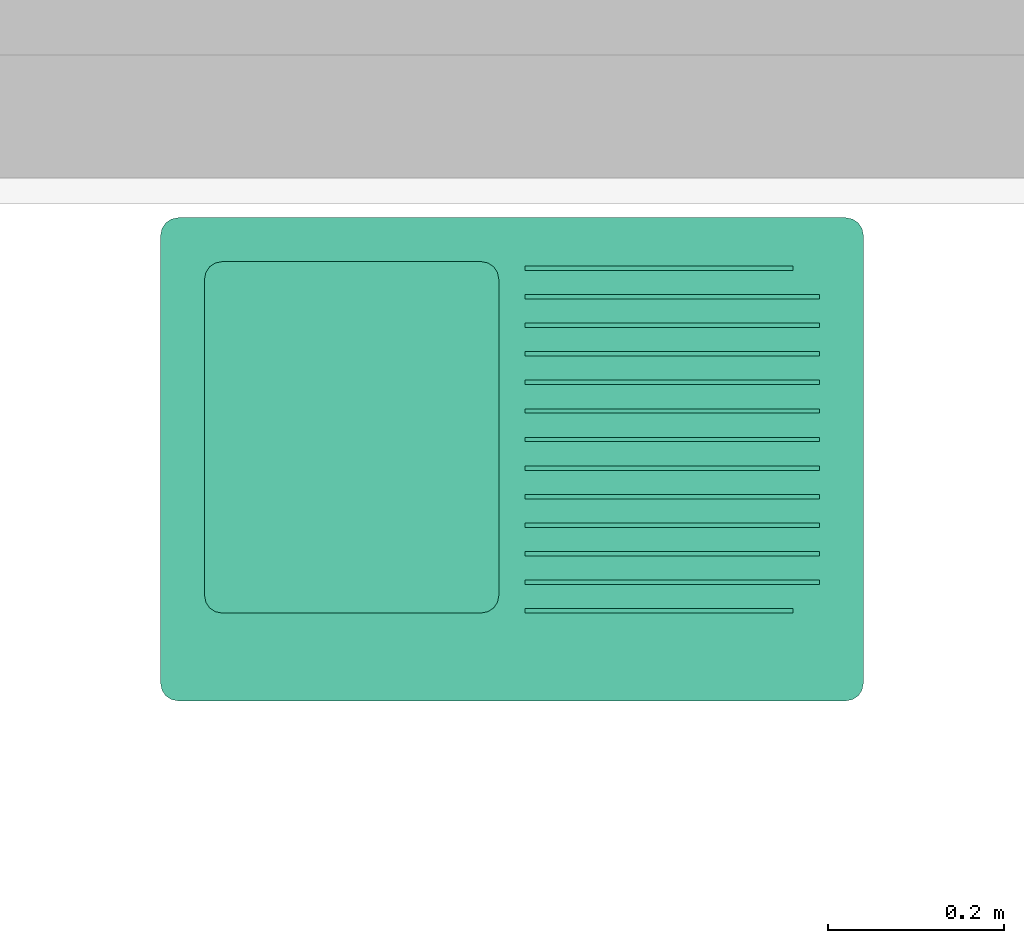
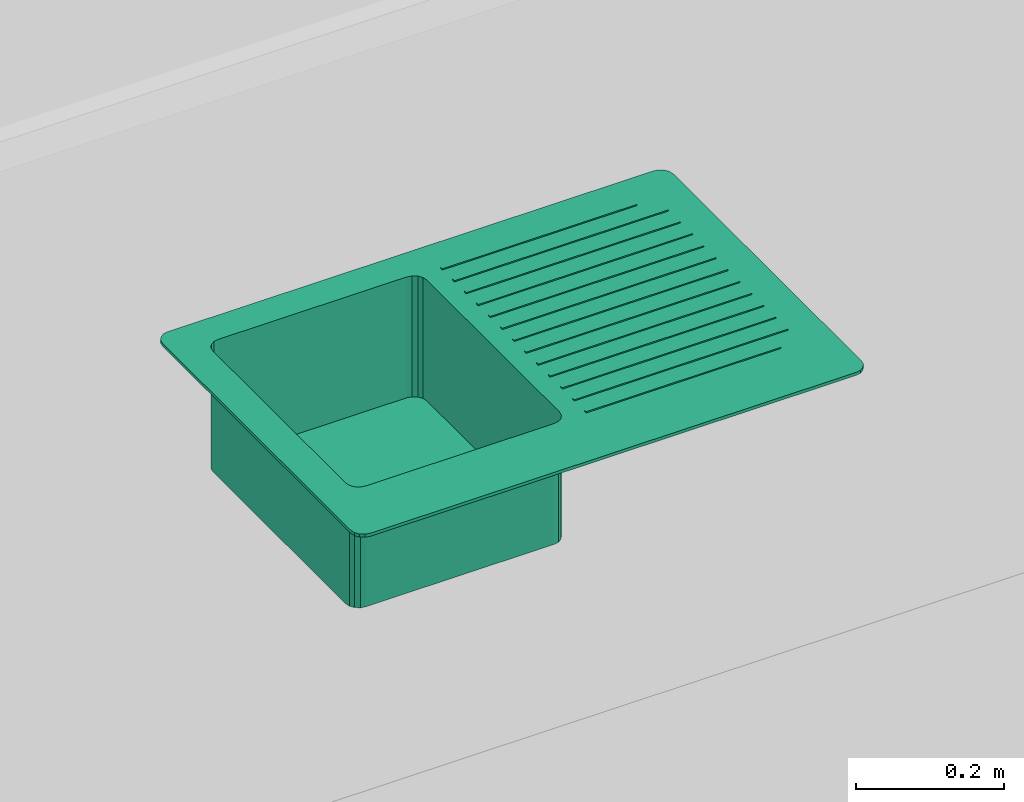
# One storey, part 31 of 34: 1 distribution element.
"""IFC2X3 building model written with IfcOpenShell, lengths in metres."""

import ifcopenshell
import ifcopenshell.guid

model = None  # the IFC model being written
_history = None  # IfcOwnerHistory: only IFC2X3 demands one
_inside = {}  # id of a spatial element -> (the spatial element, [elements in it])
_under = {}  # id of a project, library or spatial element -> (it, [spatial elements below it])
_declared = {}  # id of a project -> (the project, [libraries it declares])
_typed = {}  # id of a type object -> (the type object, [elements of that type])
_made_of = {}  # id of a material, layer set ... -> (it, [elements and type objects made of it])


def new_model(schema):
    """Start an empty IFC model of exactly this schema.

    Asked for "IFC4X3", IfcOpenShell would pick the latest addendum, in which some entities
    have other attributes; the version numbers below select the first issue.
    IFC2X3 requires an IfcOwnerHistory on every rooted entity: one is made here for all.
    """
    global model, _history
    if schema == "IFC4X3":
        model = ifcopenshell.file(schema_version=(4, 3, 0, 0))
    else:
        model = ifcopenshell.file(schema=schema)
    _inside.clear()
    _under.clear()
    _declared.clear()
    _typed.clear()
    _made_of.clear()
    _history = None
    if model.schema == "IFC2X3":
        org = make("IfcOrganization", Name="unknown")
        user = make(
            "IfcPersonAndOrganization",
            ThePerson=make("IfcPerson", FamilyName="unknown"),
            TheOrganization=org,
        )
        app = make(
            "IfcApplication",
            ApplicationDeveloper=org,
            Version="unknown",
            ApplicationFullName="unknown",
            ApplicationIdentifier="unknown",
        )
        _history = make(
            "IfcOwnerHistory",
            OwningUser=user,
            OwningApplication=app,
            ChangeAction="ADDED",
            CreationDate=0,
        )
    return model


def make(cls, **values):
    """One entity of the class cls with the attributes given. An attribute that is None is left unset."""
    return model.create_entity(
        cls, **{name: value for name, value in values.items() if value is not None}
    )


def entity(cls, *values):
    """Any entity or typed value of the class cls, its attributes in the order of the schema. None: left unset."""
    e = model.create_entity(cls)
    for i, value in enumerate(values):
        if value is not None:
            e[i] = value
    return e


def rooted(cls, **values):
    """An entity with a GlobalId (a new one), such as an element, a storey or a relation."""
    return make(cls, GlobalId=ifcopenshell.guid.new(), OwnerHistory=_history, **values)


def si_unit(unit_type, name, prefix=None):
    """IfcSIUnit, for example si_unit("LENGTHUNIT", "METRE", prefix="MILLI")."""
    return make("IfcSIUnit", UnitType=unit_type, Prefix=prefix, Name=name)


def converted_unit(unit_type, name, factor, base, dimensions=None, offset=None):
    """IfcConversionBasedUnit, such as the inch: factor (a typed value) times the base unit."""
    return make(
        "IfcConversionBasedUnit"
        if offset is None
        else "IfcConversionBasedUnitWithOffset",
        ConversionOffset=offset,
        Dimensions=None
        if dimensions is None
        else entity("IfcDimensionalExponents", *dimensions),
        UnitType=unit_type,
        Name=name,
        ConversionFactor=make(
            "IfcMeasureWithUnit", ValueComponent=factor, UnitComponent=base
        ),
    )


def derived_unit(unit_type, elements):
    """IfcDerivedUnit: a product of units, each with its exponent."""
    return make(
        "IfcDerivedUnit",
        Elements=[
            make("IfcDerivedUnitElement", Unit=unit, Exponent=power)
            for unit, power in elements
        ],
        UnitType=unit_type,
    )


def money_unit(currency):
    """IfcMonetaryUnit."""
    return make("IfcMonetaryUnit", Currency=currency)


def assignment(units):
    """IfcUnitAssignment: the units of a project."""
    return None if units is None else make("IfcUnitAssignment", Units=units)


def point(xyz):
    """IfcCartesianPoint."""
    return None if xyz is None else make("IfcCartesianPoint", Coordinates=xyz)


def direction(xyz):
    """IfcDirection."""
    return None if xyz is None else make("IfcDirection", DirectionRatios=xyz)


def frame(location, z_axis=None, x_axis=None):
    """IfcAxis2Placement3D, a coordinate frame: its origin and axes. An axis left out is left unset."""
    return make(
        "IfcAxis2Placement3D",
        Location=point(location),
        Axis=direction(z_axis),
        RefDirection=direction(x_axis),
    )


def origin_with_axes():
    """The frame at (0, 0, 0) with the z axis (0, 0, 1) and the x axis (1, 0, 0) written out."""
    return frame((0.0, 0.0, 0.0), z_axis=(0.0, 0.0, 1.0), x_axis=(1.0, 0.0, 0.0))


def place(relative_to, where):
    """IfcLocalPlacement: puts the frame where relative to a parent placement (None: the world)."""
    return make(
        "IfcLocalPlacement", PlacementRelTo=relative_to, RelativePlacement=where
    )


def context(
    kind, dimensions, precision=None, world=None, true_north=None, identifier=None
):
    """IfcGeometricRepresentationContext, for example the 3D "Model" context."""
    return make(
        "IfcGeometricRepresentationContext",
        ContextIdentifier=identifier,
        ContextType=kind,
        CoordinateSpaceDimension=dimensions,
        Precision=precision,
        WorldCoordinateSystem=world,
        TrueNorth=true_north,
    )


def subcontext(parent, identifier, kind, view, scale=None):
    """IfcGeometricRepresentationSubContext, for example "Body" below "Model"."""
    return make(
        "IfcGeometricRepresentationSubContext",
        ContextIdentifier=identifier,
        ContextType=kind,
        ParentContext=parent,
        TargetScale=scale,
        TargetView=view,
    )


def project(units=None, contexts=None):
    """IfcProject with its units and contexts."""
    return rooted(
        "IfcProject",
        Name="project",
        RepresentationContexts=contexts,
        UnitsInContext=assignment(units),
    )


def spatial(cls, under=None, at=None, **own):
    """A site, building, storey or space (cls), placed at a placement, below another one or the project."""
    s = rooted(cls, ObjectPlacement=at, **own)
    if under is not None:
        _under.setdefault(under.id(), (under, []))[1].append(s)
    return s


def faces_of(points, faces, orient=None, outer=None):
    """IfcFace entities. A face is a list of loops; a loop is a list of indices into points, from 0.

    orient and outer hold one flag for each loop. By default every Orientation is true, the
    first loop of a face is its IfcFaceOuterBound and the others are IfcFaceBound.
    """
    made = []
    for i, loops in enumerate(faces):
        bounds = []
        for j, loop in enumerate(loops):
            is_outer = j == 0 if outer is None else outer[i][j]
            bounds.append(
                make(
                    "IfcFaceOuterBound" if is_outer else "IfcFaceBound",
                    Bound=make("IfcPolyLoop", Polygon=[points[k] for k in loop]),
                    Orientation=True if orient is None else orient[i][j],
                )
            )
        made.append(make("IfcFace", Bounds=bounds))
    return made


def open_shell(faces, orient=None, outer=None):
    """The faces of one IfcOpenShell. surface_model builds it on its shared points."""
    return ("IfcOpenShell", faces, orient, outer)


def faceted_brep(points, faces, orient=None, outer=None, voids=None):
    """IfcFacetedBrep: a solid bounded by flat faces; with voids (closed shells), ...WithVoids."""
    shared = [point(p) for p in points]
    hull = make("IfcClosedShell", CfsFaces=faces_of(shared, faces, orient, outer))
    if voids is None:
        return make("IfcFacetedBrep", Outer=hull)
    return make(
        "IfcFacetedBrepWithVoids",
        Outer=hull,
        Voids=[
            make(cls, CfsFaces=faces_of(shared, fs, o, b)) for cls, fs, o, b in voids
        ],
    )


def surface_model(cls, points, shells):
    """IfcFaceBasedSurfaceModel or IfcShellBasedSurfaceModel (cls): surfaces that need not close."""
    shared = [point(p) for p in points]
    made = [make(c, CfsFaces=faces_of(shared, fs, o, b)) for c, fs, o, b in shells]
    if cls == "IfcFaceBasedSurfaceModel":
        return make(cls, FbsmFaces=made)
    return make(cls, SbsmBoundary=made)


def shape(context_of_items, identifier, shape_type, items):
    """IfcShapeRepresentation: the items that make up one representation, for example the "Body"."""
    return make(
        "IfcShapeRepresentation",
        ContextOfItems=context_of_items,
        RepresentationIdentifier=identifier,
        RepresentationType=shape_type,
        Items=items,
    )


def made_of(thing, what):
    """Note that an element or type object is made of a material, layer set ...; save() writes the relation."""
    if what is not None:
        _made_of.setdefault(what.id(), (what, []))[1].append(thing)
    return thing


def type_object(cls, material=None, **own):
    """A type object (cls), such as IfcWallType, which elements share."""
    return made_of(rooted(cls, **own), material)


def element(
    cls,
    number,
    at=None,
    inside=None,
    cuts=None,
    type_object=None,
    material=None,
    context=None,
    identifier="Body",
    shape_type=None,
    held_by="IfcProductDefinitionShape",
    body=None,
    shapes=None,
    **own,
):
    """One element of the class cls, such as IfcWall. Its Tag is "e" and its number.

    at: its placement. inside: the storey or other place that contains it. cuts: it is an
    opening in that element (IfcRelVoidsElement). A single representation is given by context,
    identifier, shape_type and body (its items); several are given by shapes. held_by: the class
    of the entity that holds the representations. save() writes the other relations.
    """
    e = rooted(cls, Tag="e%d" % number, ObjectPlacement=at, **own)
    if body is not None:
        shapes = [shape(context, identifier, shape_type, body)]
    if shapes is not None:
        e.Representation = make(held_by, Representations=shapes)
    if inside is not None:
        _inside.setdefault(inside.id(), (inside, []))[1].append(e)
    if cuts is not None:
        rooted(
            "IfcRelVoidsElement", RelatingBuildingElement=cuts, RelatedOpeningElement=e
        )
    if type_object is not None:
        _typed.setdefault(type_object.id(), (type_object, []))[1].append(e)
    return made_of(e, material)


def aggregate(whole, parts):
    """IfcRelAggregates: a whole, such as a stair, and the parts it consists of."""
    return rooted("IfcRelAggregates", RelatingObject=whole, RelatedObjects=parts)


def save(model, path):
    """Write the relations noted so far, then the file.

    IfcRelAggregates (storeys below a building ...), IfcRelContainedInSpatialStructure (elements
    in a storey), IfcRelDefinesByType, IfcRelAssociatesMaterial and IfcRelDeclares: one each for
    every whole, place, type object, material and project.
    """
    for whole, parts in _under.values():
        aggregate(whole, parts)
    for where, things in _inside.values():
        rooted(
            "IfcRelContainedInSpatialStructure",
            RelatedElements=things,
            RelatingStructure=where,
        )
    for kind, things in _typed.values():
        rooted("IfcRelDefinesByType", RelatedObjects=things, RelatingType=kind)
    for what, things in _made_of.values():
        rooted("IfcRelAssociatesMaterial", RelatedObjects=things, RelatingMaterial=what)
    for by, libraries in _declared.values():
        rooted("IfcRelDeclares", RelatingContext=by, RelatedDefinitions=libraries)
    model.write(path)


model = new_model("IFC2X3")

# Units and contexts
model_context = context("Model", 3, precision=1e-05, world=origin_with_axes(), true_north=direction((0.0, 1.0)))
body_context = subcontext(model_context, "Body", "Model", "MODEL_VIEW")
ifc_project = project(units=[si_unit("LENGTHUNIT", "METRE"), si_unit("AREAUNIT", "SQUARE_METRE"), si_unit("VOLUMEUNIT", "CUBIC_METRE"), converted_unit("PLANEANGLEUNIT", "DEGREE", entity("IfcPlaneAngleMeasure", 0.0174532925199), si_unit("PLANEANGLEUNIT", "RADIAN"), dimensions=[0, 0, 0, 0, 0, 0, 0]), money_unit("CHF"), converted_unit("TIMEUNIT", "Year", entity("IfcTimeMeasure", 31556926.0), si_unit("TIMEUNIT", "SECOND"), dimensions=[0, 0, 1, 0, 0, 0, 0]), si_unit("MASSUNIT", "GRAM", prefix="KILO"), si_unit("THERMODYNAMICTEMPERATUREUNIT", "DEGREE_CELSIUS"), si_unit("LUMINOUSINTENSITYUNIT", "LUMEN"), si_unit("ENERGYUNIT", "JOULE", prefix="MEGA"), derived_unit("THERMALCONDUCTANCEUNIT", [(si_unit("POWERUNIT", "WATT"), 1), (si_unit("LENGTHUNIT", "METRE"), -1), (si_unit("THERMODYNAMICTEMPERATUREUNIT", "KELVIN"), -1)]), derived_unit("SPECIFICHEATCAPACITYUNIT", [(si_unit("ENERGYUNIT", "JOULE"), 1), (si_unit("MASSUNIT", "GRAM", prefix="KILO"), -1), (si_unit("THERMODYNAMICTEMPERATUREUNIT", "KELVIN"), -1)]), derived_unit("MASSDENSITYUNIT", [(si_unit("MASSUNIT", "GRAM", prefix="KILO"), 1), (si_unit("VOLUMEUNIT", "CUBIC_METRE"), -1)])], contexts=[model_context])

# Site, building, storey
site_placement = place(None, origin_with_axes())
site = spatial("IfcSite", under=ifc_project, at=site_placement, Name="Site", CompositionType="ELEMENT")
building_placement = place(site_placement, origin_with_axes())
building = spatial("IfcBuilding", under=site, at=building_placement, Name="Bâtiment", CompositionType="ELEMENT")
storey_placement = place(building_placement, origin_with_axes())
storey = spatial("IfcBuildingStorey", under=building, at=storey_placement, Name="RDC", CompositionType="ELEMENT", Elevation=-5.32907e-15)

# Distribution element
distribution_element_type = type_object("IfcDistributionElementType", Name="Evier à double bacs 25")
distribution_element_placement = place(storey_placement, frame((1669.21562268, 190.054697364, 0.47), z_axis=(0.0, 0.0, 1.0), x_axis=(-1.0, 0.0, 0.0)))
element("IfcDistributionElement", 1, at=distribution_element_placement, inside=storey, type_object=distribution_element_type, Name="Protection-003", context=body_context, shape_type="SurfaceModel", body=[
    surface_model("IfcShellBasedSurfaceModel", [(-0.3, 0.329, 0.7), (-0.3, 0.329, 0.68), (-0.294564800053, 0.329715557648, 0.68), (-0.294564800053, 0.329715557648, 0.7), (-0.305435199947, 0.329715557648, 0.7), (-0.305435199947, 0.329715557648, 0.68), (-0.2895, 0.331813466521, 0.68), (-0.2895, 0.331813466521, 0.7), (-0.3105, 0.331813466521, 0.7), (-0.3105, 0.331813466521, 0.68), (-0.285150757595, 0.335150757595, 0.68), (-0.285150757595, 0.335150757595, 0.7), (-0.314849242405, 0.335150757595, 0.7), (-0.314849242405, 0.335150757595, 0.68), (-0.281813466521, 0.3395, 0.68), (-0.281813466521, 0.3395, 0.7), (-0.318186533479, 0.3395, 0.7), (-0.318186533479, 0.3395, 0.68), (-0.279715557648, 0.344564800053, 0.68), (-0.279715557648, 0.344564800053, 0.7), (-0.320284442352, 0.344564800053, 0.7), (-0.320284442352, 0.344564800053, 0.68), (-0.279, 0.35, 0.68), (-0.279, 0.35, 0.7), (-0.321, 0.35, 0.7), (-0.321, 0.35, 0.68), (-0.279715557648, 0.355435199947, 0.68), (-0.279715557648, 0.355435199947, 0.7), (-0.320284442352, 0.355435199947, 0.7), (-0.320284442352, 0.355435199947, 0.68), (-0.281813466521, 0.3605, 0.68), (-0.281813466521, 0.3605, 0.7), (-0.318186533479, 0.3605, 0.7), (-0.318186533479, 0.3605, 0.68), (-0.285150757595, 0.364849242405, 0.68), (-0.285150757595, 0.364849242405, 0.7), (-0.314849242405, 0.364849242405, 0.7), (-0.314849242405, 0.364849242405, 0.68), (-0.2895, 0.368186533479, 0.68), (-0.2895, 0.368186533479, 0.7), (-0.3105, 0.368186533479, 0.7), (-0.3105, 0.368186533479, 0.68), (-0.294564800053, 0.370284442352, 0.68), (-0.294564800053, 0.370284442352, 0.7), (-0.305435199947, 0.370284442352, 0.7), (-0.305435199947, 0.370284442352, 0.68), (-0.3, 0.371, 0.68), (-0.3, 0.371, 0.7)], [open_shell([[[0, 1, 2, 3]], [[4, 5, 1, 0]], [[3, 2, 6, 7]], [[8, 9, 5, 4]], [[7, 6, 10, 11]], [[12, 13, 9, 8]], [[11, 10, 14, 15]], [[16, 17, 13, 12]], [[15, 14, 18, 19]], [[20, 21, 17, 16]], [[19, 18, 22, 23]], [[24, 25, 21, 20]], [[23, 22, 26, 27]], [[28, 29, 25, 24]], [[27, 26, 30, 31]], [[32, 33, 29, 28]], [[31, 30, 34, 35]], [[36, 37, 33, 32]], [[35, 34, 38, 39]], [[40, 41, 37, 36]], [[39, 38, 42, 43]], [[44, 45, 41, 40]], [[43, 42, 46, 47]], [[47, 46, 45, 44]]])]),
    surface_model("IfcShellBasedSurfaceModel", [(-0.07, 0.05, 0.705), (-0.07, 0.05, 0.9), (-0.365, 0.05, 0.9), (-0.365, 0.05, 0.705), (-0.0623463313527, 0.0515224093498, 0.705), (-0.0623463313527, 0.0515224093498, 0.9), (-0.372653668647, 0.0515224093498, 0.9), (-0.372653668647, 0.0515224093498, 0.705), (-0.379142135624, 0.0558578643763, 0.705), (-0.38347759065, 0.0623463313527, 0.705), (-0.385, 0.07, 0.705), (-0.385, 0.43, 0.705), (-0.38347759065, 0.437653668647, 0.705), (-0.379142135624, 0.444142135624, 0.705), (-0.372653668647, 0.44847759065, 0.705), (-0.365, 0.45, 0.705), (-0.07, 0.45, 0.705), (-0.0623463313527, 0.44847759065, 0.705), (-0.0558578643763, 0.444142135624, 0.705), (-0.0515224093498, 0.437653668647, 0.705), (-0.05, 0.43, 0.705), (-0.05, 0.07, 0.705), (-0.0515224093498, 0.0623463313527, 0.705), (-0.0558578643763, 0.0558578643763, 0.705), (-0.0558578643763, 0.0558578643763, 0.9), (-0.379142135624, 0.0558578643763, 0.9), (-0.38347759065, 0.0623463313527, 0.9), (-0.385, 0.07, 0.9), (-0.385, 0.43, 0.9), (-0.38347759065, 0.437653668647, 0.9), (-0.379142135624, 0.444142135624, 0.9), (-0.372653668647, 0.44847759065, 0.9), (-0.365, 0.45, 0.9), (-0.07, 0.45, 0.9), (-0.0623463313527, 0.44847759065, 0.9), (-0.0558578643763, 0.444142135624, 0.9), (-0.0515224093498, 0.437653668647, 0.9), (-0.05, 0.43, 0.9), (-0.05, 0.07, 0.9), (-0.0515224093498, 0.0623463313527, 0.9)], [open_shell([[[0, 1, 2, 3]], [[4, 5, 1, 0]], [[3, 2, 6, 7]], [[0, 3, 7, 8, 9, 10, 11, 12, 13, 14, 15, 16, 17, 18, 19, 20, 21, 22, 23, 4]], [[23, 24, 5, 4]], [[7, 6, 25, 8]], [[8, 25, 26, 9]], [[9, 26, 27, 10]], [[10, 27, 28, 11]], [[11, 28, 29, 12]], [[12, 29, 30, 13]], [[13, 30, 31, 14]], [[14, 31, 32, 15]], [[15, 32, 33, 16]], [[16, 33, 34, 17]], [[17, 34, 35, 18]], [[18, 35, 36, 19]], [[19, 36, 37, 20]], [[20, 37, 38, 21]], [[21, 38, 39, 22]], [[22, 39, 24, 23]]])]),
    faceted_brep([(-0.02, 0.0, 0.9), (-0.02, 0.0, 0.905), (-0.78, 0.0, 0.905), (-0.78, 0.0, 0.9), (-0.0123463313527, 0.00152240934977, 0.9), (-0.0123463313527, 0.00152240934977, 0.905), (-0.00585786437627, 0.00585786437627, 0.905), (-0.00152240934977, 0.0123463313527, 0.905), (0.0, 0.02, 0.905), (0.0, 0.53, 0.905), (-0.00152240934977, 0.537653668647, 0.905), (-0.00585786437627, 0.544142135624, 0.905), (-0.0123463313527, 0.54847759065, 0.905), (-0.02, 0.55, 0.905), (-0.78, 0.55, 0.905), (-0.787653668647, 0.54847759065, 0.905), (-0.794142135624, 0.544142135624, 0.905), (-0.79847759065, 0.537653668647, 0.905), (-0.8, 0.53, 0.905), (-0.8, 0.02, 0.905), (-0.79847759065, 0.0123463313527, 0.905), (-0.794142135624, 0.00585786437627, 0.905), (-0.787653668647, 0.00152240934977, 0.905), (-0.07, 0.05, 0.905), (-0.365, 0.05, 0.905), (-0.372653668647, 0.0515224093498, 0.905), (-0.379142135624, 0.0558578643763, 0.905), (-0.38347759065, 0.0623463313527, 0.905), (-0.385, 0.07, 0.905), (-0.385, 0.43, 0.905), (-0.38347759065, 0.437653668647, 0.905), (-0.379142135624, 0.444142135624, 0.905), (-0.372653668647, 0.44847759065, 0.905), (-0.365, 0.45, 0.905), (-0.07, 0.45, 0.905), (-0.0623463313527, 0.44847759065, 0.905), (-0.0558578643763, 0.444142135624, 0.905), (-0.0515224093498, 0.437653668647, 0.905), (-0.05, 0.43, 0.905), (-0.05, 0.07, 0.905), (-0.0515224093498, 0.0623463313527, 0.905), (-0.0558578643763, 0.0558578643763, 0.905), (-0.0623463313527, 0.0515224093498, 0.905), (-0.787653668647, 0.00152240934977, 0.9), (-0.794142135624, 0.00585786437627, 0.9), (-0.79847759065, 0.0123463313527, 0.9), (-0.8, 0.02, 0.9), (-0.8, 0.53, 0.9), (-0.79847759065, 0.537653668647, 0.9), (-0.794142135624, 0.544142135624, 0.9), (-0.787653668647, 0.54847759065, 0.9), (-0.78, 0.55, 0.9), (-0.02, 0.55, 0.9), (-0.0123463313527, 0.54847759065, 0.9), (-0.00585786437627, 0.544142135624, 0.9), (-0.00152240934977, 0.537653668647, 0.9), (0.0, 0.53, 0.9), (0.0, 0.02, 0.9), (-0.00152240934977, 0.0123463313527, 0.9), (-0.00585786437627, 0.00585786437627, 0.9), (-0.07, 0.05, 0.9), (-0.0623463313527, 0.0515224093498, 0.9), (-0.0558578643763, 0.0558578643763, 0.9), (-0.0515224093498, 0.0623463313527, 0.9), (-0.05, 0.07, 0.9), (-0.05, 0.43, 0.9), (-0.0515224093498, 0.437653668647, 0.9), (-0.0558578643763, 0.444142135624, 0.9), (-0.0623463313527, 0.44847759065, 0.9), (-0.07, 0.45, 0.9), (-0.365, 0.45, 0.9), (-0.372653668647, 0.44847759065, 0.9), (-0.379142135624, 0.444142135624, 0.9), (-0.38347759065, 0.437653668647, 0.9), (-0.385, 0.43, 0.9), (-0.385, 0.07, 0.9), (-0.38347759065, 0.0623463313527, 0.9), (-0.379142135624, 0.0558578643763, 0.9), (-0.372653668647, 0.0515224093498, 0.9), (-0.365, 0.05, 0.9)], [[[0, 1, 2, 3]], [[4, 5, 1, 0]], [[1, 5, 6, 7, 8, 9, 10, 11, 12, 13, 14, 15, 16, 17, 18, 19, 20, 21, 22, 2], [23, 24, 25, 26, 27, 28, 29, 30, 31, 32, 33, 34, 35, 36, 37, 38, 39, 40, 41, 42]], [[3, 2, 22, 43]], [[0, 3, 43, 44, 45, 46, 47, 48, 49, 50, 51, 52, 53, 54, 55, 56, 57, 58, 59, 4], [60, 61, 62, 63, 64, 65, 66, 67, 68, 69, 70, 71, 72, 73, 74, 75, 76, 77, 78, 79]], [[59, 6, 5, 4]], [[58, 7, 6, 59]], [[57, 8, 7, 58]], [[56, 9, 8, 57]], [[55, 10, 9, 56]], [[54, 11, 10, 55]], [[53, 12, 11, 54]], [[52, 13, 12, 53]], [[51, 14, 13, 52]], [[50, 15, 14, 51]], [[49, 16, 15, 50]], [[48, 17, 16, 49]], [[47, 18, 17, 48]], [[46, 19, 18, 47]], [[45, 20, 19, 46]], [[44, 21, 20, 45]], [[43, 22, 21, 44]], [[79, 24, 23, 60]], [[78, 25, 24, 79]], [[77, 26, 25, 78]], [[76, 27, 26, 77]], [[75, 28, 27, 76]], [[74, 29, 28, 75]], [[73, 30, 29, 74]], [[72, 31, 30, 73]], [[71, 32, 31, 72]], [[70, 33, 32, 71]], [[69, 34, 33, 70]], [[68, 35, 34, 69]], [[67, 36, 35, 68]], [[66, 37, 36, 67]], [[65, 38, 37, 66]], [[64, 39, 38, 65]], [[63, 40, 39, 64]], [[62, 41, 40, 63]], [[61, 42, 41, 62]], [[60, 23, 42, 61]]]),
    faceted_brep([(-0.415, 0.055, 0.905), (-0.415, 0.055, 0.907), (-0.72, 0.055, 0.907), (-0.72, 0.055, 0.905), (-0.415, 0.06, 0.905), (-0.415, 0.06, 0.907), (-0.72, 0.06, 0.907), (-0.72, 0.06, 0.905)], [[[0, 1, 2, 3]], [[4, 5, 1, 0]], [[1, 5, 6, 2]], [[3, 2, 6, 7]], [[0, 3, 7, 4]], [[7, 6, 5, 4]]]),
    faceted_brep([(-0.415, 0.0875, 0.905), (-0.415, 0.0875, 0.907), (-0.75, 0.0875, 0.907), (-0.75, 0.0875, 0.905), (-0.415, 0.0925, 0.905), (-0.415, 0.0925, 0.907), (-0.75, 0.0925, 0.907), (-0.75, 0.0925, 0.905)], [[[0, 1, 2, 3]], [[4, 5, 1, 0]], [[1, 5, 6, 2]], [[3, 2, 6, 7]], [[0, 3, 7, 4]], [[7, 6, 5, 4]]]),
    faceted_brep([(-0.415, 0.12, 0.905), (-0.415, 0.12, 0.907), (-0.75, 0.12, 0.907), (-0.75, 0.12, 0.905), (-0.415, 0.125, 0.905), (-0.415, 0.125, 0.907), (-0.75, 0.125, 0.907), (-0.75, 0.125, 0.905)], [[[0, 1, 2, 3]], [[4, 5, 1, 0]], [[1, 5, 6, 2]], [[3, 2, 6, 7]], [[0, 3, 7, 4]], [[7, 6, 5, 4]]]),
    faceted_brep([(-0.415, 0.1525, 0.905), (-0.415, 0.1525, 0.907), (-0.75, 0.1525, 0.907), (-0.75, 0.1525, 0.905), (-0.415, 0.1575, 0.905), (-0.415, 0.1575, 0.907), (-0.75, 0.1575, 0.907), (-0.75, 0.1575, 0.905)], [[[0, 1, 2, 3]], [[4, 5, 1, 0]], [[1, 5, 6, 2]], [[3, 2, 6, 7]], [[0, 3, 7, 4]], [[7, 6, 5, 4]]]),
    faceted_brep([(-0.415, 0.185, 0.905), (-0.415, 0.185, 0.907), (-0.75, 0.185, 0.907), (-0.75, 0.185, 0.905), (-0.415, 0.19, 0.905), (-0.415, 0.19, 0.907), (-0.75, 0.19, 0.907), (-0.75, 0.19, 0.905)], [[[0, 1, 2, 3]], [[4, 5, 1, 0]], [[1, 5, 6, 2]], [[3, 2, 6, 7]], [[0, 3, 7, 4]], [[7, 6, 5, 4]]]),
    faceted_brep([(-0.415, 0.2175, 0.905), (-0.415, 0.2175, 0.907), (-0.75, 0.2175, 0.907), (-0.75, 0.2175, 0.905), (-0.415, 0.2225, 0.905), (-0.415, 0.2225, 0.907), (-0.75, 0.2225, 0.907), (-0.75, 0.2225, 0.905)], [[[0, 1, 2, 3]], [[4, 5, 1, 0]], [[1, 5, 6, 2]], [[3, 2, 6, 7]], [[0, 3, 7, 4]], [[7, 6, 5, 4]]]),
    faceted_brep([(-0.415, 0.25, 0.905), (-0.415, 0.25, 0.907), (-0.75, 0.25, 0.907), (-0.75, 0.25, 0.905), (-0.415, 0.255, 0.905), (-0.415, 0.255, 0.907), (-0.75, 0.255, 0.907), (-0.75, 0.255, 0.905)], [[[0, 1, 2, 3]], [[4, 5, 1, 0]], [[1, 5, 6, 2]], [[3, 2, 6, 7]], [[0, 3, 7, 4]], [[7, 6, 5, 4]]]),
    faceted_brep([(-0.415, 0.2825, 0.905), (-0.415, 0.2825, 0.907), (-0.75, 0.2825, 0.907), (-0.75, 0.2825, 0.905), (-0.415, 0.2875, 0.905), (-0.415, 0.2875, 0.907), (-0.75, 0.2875, 0.907), (-0.75, 0.2875, 0.905)], [[[0, 1, 2, 3]], [[4, 5, 1, 0]], [[1, 5, 6, 2]], [[3, 2, 6, 7]], [[0, 3, 7, 4]], [[7, 6, 5, 4]]]),
    faceted_brep([(-0.415, 0.315, 0.905), (-0.415, 0.315, 0.907), (-0.75, 0.315, 0.907), (-0.75, 0.315, 0.905), (-0.415, 0.32, 0.905), (-0.415, 0.32, 0.907), (-0.75, 0.32, 0.907), (-0.75, 0.32, 0.905)], [[[0, 1, 2, 3]], [[4, 5, 1, 0]], [[1, 5, 6, 2]], [[3, 2, 6, 7]], [[0, 3, 7, 4]], [[7, 6, 5, 4]]]),
    faceted_brep([(-0.415, 0.3475, 0.905), (-0.415, 0.3475, 0.907), (-0.75, 0.3475, 0.907), (-0.75, 0.3475, 0.905), (-0.415, 0.3525, 0.905), (-0.415, 0.3525, 0.907), (-0.75, 0.3525, 0.907), (-0.75, 0.3525, 0.905)], [[[0, 1, 2, 3]], [[4, 5, 1, 0]], [[1, 5, 6, 2]], [[3, 2, 6, 7]], [[0, 3, 7, 4]], [[7, 6, 5, 4]]]),
    faceted_brep([(-0.415, 0.38, 0.905), (-0.415, 0.38, 0.907), (-0.75, 0.38, 0.907), (-0.75, 0.38, 0.905), (-0.415, 0.385, 0.905), (-0.415, 0.385, 0.907), (-0.75, 0.385, 0.907), (-0.75, 0.385, 0.905)], [[[0, 1, 2, 3]], [[4, 5, 1, 0]], [[1, 5, 6, 2]], [[3, 2, 6, 7]], [[0, 3, 7, 4]], [[7, 6, 5, 4]]]),
    faceted_brep([(-0.415, 0.4125, 0.905), (-0.415, 0.4125, 0.907), (-0.75, 0.4125, 0.907), (-0.75, 0.4125, 0.905), (-0.415, 0.4175, 0.905), (-0.415, 0.4175, 0.907), (-0.75, 0.4175, 0.907), (-0.75, 0.4175, 0.905)], [[[0, 1, 2, 3]], [[4, 5, 1, 0]], [[1, 5, 6, 2]], [[3, 2, 6, 7]], [[0, 3, 7, 4]], [[7, 6, 5, 4]]]),
    faceted_brep([(-0.415, 0.445, 0.905), (-0.415, 0.445, 0.907), (-0.72, 0.445, 0.907), (-0.72, 0.445, 0.905), (-0.415, 0.45, 0.905), (-0.415, 0.45, 0.907), (-0.72, 0.45, 0.907), (-0.72, 0.45, 0.905)], [[[0, 1, 2, 3]], [[4, 5, 1, 0]], [[1, 5, 6, 2]], [[3, 2, 6, 7]], [[0, 3, 7, 4]], [[7, 6, 5, 4]]]),
])

save(model, "model.ifc")
